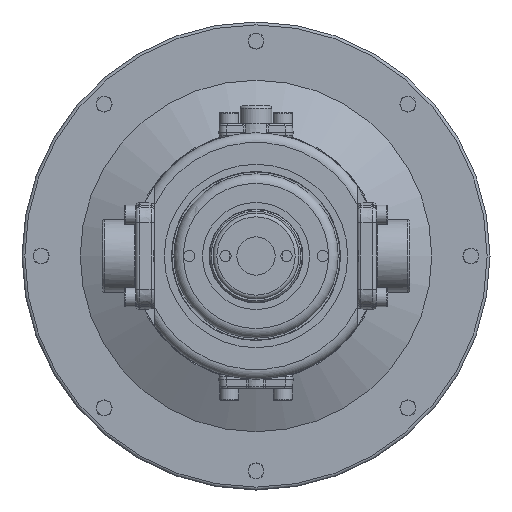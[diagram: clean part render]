
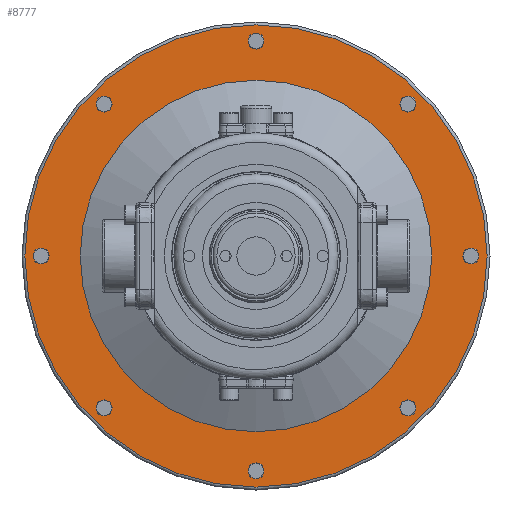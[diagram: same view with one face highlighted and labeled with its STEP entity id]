
A CAD part, front view. The second image highlights one B-rep face of the part: STEP entity #8777.
In plain terms, the highlighted planar face has unit normal (0, -1, 0).
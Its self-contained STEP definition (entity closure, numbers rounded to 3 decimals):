
#1869=FACE_BOUND('',#2846,.T.);
#1870=FACE_BOUND('',#2847,.T.);
#1871=FACE_BOUND('',#2848,.T.);
#1872=FACE_BOUND('',#2849,.T.);
#1873=FACE_BOUND('',#2850,.T.);
#1874=FACE_BOUND('',#2851,.T.);
#1875=FACE_BOUND('',#2852,.T.);
#1876=FACE_BOUND('',#2853,.T.);
#1877=FACE_BOUND('',#2854,.T.);
#2229=FACE_OUTER_BOUND('',#2845,.T.);
#2845=EDGE_LOOP('',(#7373));
#2846=EDGE_LOOP('',(#7374));
#2847=EDGE_LOOP('',(#7375));
#2848=EDGE_LOOP('',(#7376));
#2849=EDGE_LOOP('',(#7377));
#2850=EDGE_LOOP('',(#7378));
#2851=EDGE_LOOP('',(#7379));
#2852=EDGE_LOOP('',(#7380));
#2853=EDGE_LOOP('',(#7381));
#2854=EDGE_LOOP('',(#7382));
#3464=CIRCLE('',#10069,4.188);
#3466=CIRCLE('',#10073,4.188);
#3468=CIRCLE('',#10077,4.188);
#3470=CIRCLE('',#10081,4.188);
#3472=CIRCLE('',#10085,4.188);
#3474=CIRCLE('',#10089,4.188);
#3476=CIRCLE('',#10093,4.188);
#3478=CIRCLE('',#10097,4.188);
#3481=CIRCLE('',#10101,121.);
#3485=CIRCLE('',#10107,92.);
#4260=VERTEX_POINT('',#17203);
#4262=VERTEX_POINT('',#17211);
#4264=VERTEX_POINT('',#17219);
#4266=VERTEX_POINT('',#17227);
#4268=VERTEX_POINT('',#17235);
#4270=VERTEX_POINT('',#17243);
#4272=VERTEX_POINT('',#17251);
#4274=VERTEX_POINT('',#17259);
#4277=VERTEX_POINT('',#17266);
#4280=VERTEX_POINT('',#17277);
#5333=EDGE_CURVE('',#4260,#4260,#3464,.T.);
#5337=EDGE_CURVE('',#4262,#4262,#3466,.T.);
#5341=EDGE_CURVE('',#4264,#4264,#3468,.T.);
#5345=EDGE_CURVE('',#4266,#4266,#3470,.T.);
#5349=EDGE_CURVE('',#4268,#4268,#3472,.T.);
#5353=EDGE_CURVE('',#4270,#4270,#3474,.T.);
#5357=EDGE_CURVE('',#4272,#4272,#3476,.T.);
#5361=EDGE_CURVE('',#4274,#4274,#3478,.T.);
#5364=EDGE_CURVE('',#4277,#4277,#3481,.T.);
#5369=EDGE_CURVE('',#4280,#4280,#3485,.T.);
#7373=ORIENTED_EDGE('',*,*,#5364,.F.);
#7374=ORIENTED_EDGE('',*,*,#5369,.T.);
#7375=ORIENTED_EDGE('',*,*,#5333,.T.);
#7376=ORIENTED_EDGE('',*,*,#5357,.T.);
#7377=ORIENTED_EDGE('',*,*,#5349,.T.);
#7378=ORIENTED_EDGE('',*,*,#5341,.T.);
#7379=ORIENTED_EDGE('',*,*,#5337,.T.);
#7380=ORIENTED_EDGE('',*,*,#5345,.T.);
#7381=ORIENTED_EDGE('',*,*,#5353,.T.);
#7382=ORIENTED_EDGE('',*,*,#5361,.T.);
#8410=PLANE('',#10106);
#8777=ADVANCED_FACE('',(#2229,#1869,#1870,#1871,#1872,#1873,#1874,#1875,
#1876,#1877),#8410,.F.);
#10069=AXIS2_PLACEMENT_3D('',#17205,#12177,#12178);
#10073=AXIS2_PLACEMENT_3D('',#17213,#12187,#12188);
#10077=AXIS2_PLACEMENT_3D('',#17221,#12197,#12198);
#10081=AXIS2_PLACEMENT_3D('',#17229,#12207,#12208);
#10085=AXIS2_PLACEMENT_3D('',#17237,#12217,#12218);
#10089=AXIS2_PLACEMENT_3D('',#17245,#12227,#12228);
#10093=AXIS2_PLACEMENT_3D('',#17253,#12237,#12238);
#10097=AXIS2_PLACEMENT_3D('',#17261,#12247,#12248);
#10101=AXIS2_PLACEMENT_3D('',#17268,#12255,#12256);
#10106=AXIS2_PLACEMENT_3D('',#17276,#12266,#12267);
#10107=AXIS2_PLACEMENT_3D('',#17278,#12268,#12269);
#12177=DIRECTION('center_axis',(0.,1.,0.));
#12178=DIRECTION('ref_axis',(1.,0.,0.));
#12187=DIRECTION('center_axis',(0.,1.,0.));
#12188=DIRECTION('ref_axis',(1.,0.,0.));
#12197=DIRECTION('center_axis',(0.,1.,0.));
#12198=DIRECTION('ref_axis',(1.,0.,0.));
#12207=DIRECTION('center_axis',(0.,1.,0.));
#12208=DIRECTION('ref_axis',(1.,0.,0.));
#12217=DIRECTION('center_axis',(0.,1.,0.));
#12218=DIRECTION('ref_axis',(1.,0.,0.));
#12227=DIRECTION('center_axis',(0.,1.,0.));
#12228=DIRECTION('ref_axis',(1.,0.,0.));
#12237=DIRECTION('center_axis',(0.,1.,0.));
#12238=DIRECTION('ref_axis',(1.,0.,0.));
#12247=DIRECTION('center_axis',(0.,1.,0.));
#12248=DIRECTION('ref_axis',(1.,0.,0.));
#12255=DIRECTION('center_axis',(0.,1.,0.));
#12256=DIRECTION('ref_axis',(1.,0.,0.));
#12266=DIRECTION('center_axis',(0.,1.,0.));
#12267=DIRECTION('ref_axis',(0.,0.,
1.));
#12268=DIRECTION('center_axis',(0.,1.,0.));
#12269=DIRECTION('ref_axis',(1.,0.,0.));
#17203=CARTESIAN_POINT('',(-83.738,13.,79.55));
#17205=CARTESIAN_POINT('Origin',(-79.55,13.,79.55));
#17211=CARTESIAN_POINT('',(-4.188,13.,112.5));
#17213=CARTESIAN_POINT('Origin',(0.,13.,112.5));
#17219=CARTESIAN_POINT('',(75.362,13.,79.55));
#17221=CARTESIAN_POINT('Origin',(79.55,13.,79.55));
#17227=CARTESIAN_POINT('',(108.312,13.,0.));
#17229=CARTESIAN_POINT('Origin',(112.5,13.,0.));
#17235=CARTESIAN_POINT('',(75.362,13.,-79.55));
#17237=CARTESIAN_POINT('Origin',(79.55,13.,-79.55));
#17243=CARTESIAN_POINT('',(-4.188,13.,-112.5));
#17245=CARTESIAN_POINT('Origin',(0.,13.,-112.5));
#17251=CARTESIAN_POINT('',(-83.738,13.,-79.55));
#17253=CARTESIAN_POINT('Origin',(-79.55,13.,-79.55));
#17259=CARTESIAN_POINT('',(-116.688,13.,0.));
#17261=CARTESIAN_POINT('Origin',(-112.5,13.,0.));
#17266=CARTESIAN_POINT('',(0.,13.,-121.));
#17268=CARTESIAN_POINT('Origin',(0.,13.,0.));
#17276=CARTESIAN_POINT('Origin',(-92.,13.,0.));
#17277=CARTESIAN_POINT('',(92.,13.,0.));
#17278=CARTESIAN_POINT('Origin',(0.,13.,0.));
